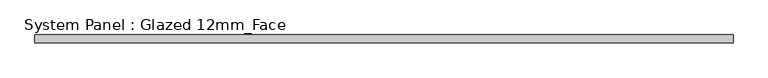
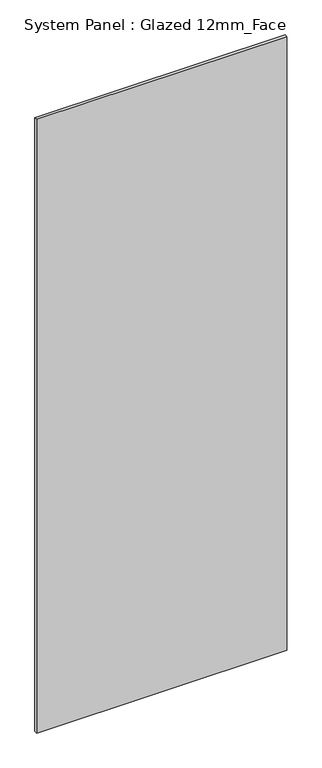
"""IFC4 building model written with IfcOpenShell, lengths in millimetres: plate geometry, System Panel : Glazed 12mm_Face."""

from ifc_helpers import new_model, si_unit, origin, origin_with_axes, place, context, project, spatial, polyline, outline, extrude, source, transform, mapped, element, save


def system_panel_glazed_12mm_face_7741d691(model_context):
    return source(origin(), model_context, "Body", "SweptSolid", [
        extrude(outline(polyline([(539.5833776, 0.0), (-539.5833776, 0.0), (-539.5833776, 12.0), (539.5833776, 12.0), (539.5833776, 0.0)])), origin_with_axes(), (0.0, 0.0, 1.0), 2800.0),
    ])


if __name__ == "__main__":
    model = new_model("IFC4")
    model_context = context("Model", 3, world=origin())
    ifc_project = project(units=[si_unit("LENGTHUNIT", "METRE", prefix="MILLI")], contexts=[model_context])
    site = spatial("IfcSite", under=ifc_project)
    building = spatial("IfcBuilding", under=site)
    placement = place(None, origin())
    system_panel_glazed_12mm_face_shape = system_panel_glazed_12mm_face_7741d691(model_context)
    element("IfcPlate", 1, ObjectType="System Panel : Glazed 12mm_Face", at=placement, inside=building, context=model_context, shape_type="MappedRepresentation", body=[
        mapped(system_panel_glazed_12mm_face_shape, transform((0.0, 0.0, 0.0), x_axis=(1.0, 0.0, 0.0), y_axis=(0.0, 1.0, 0.0), z_axis=(0.0, 0.0, 1.0))),
    ])
    save(model, "model.ifc")
